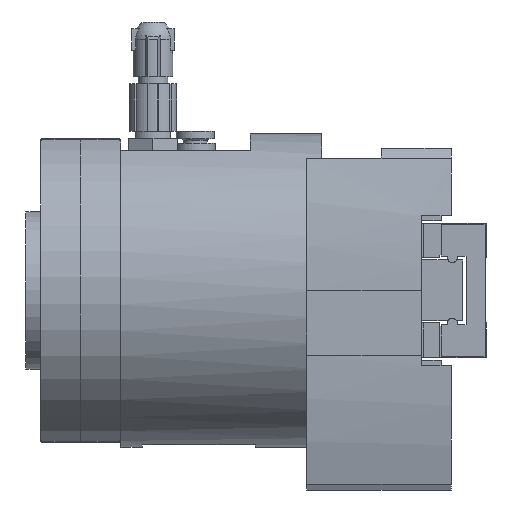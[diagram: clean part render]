
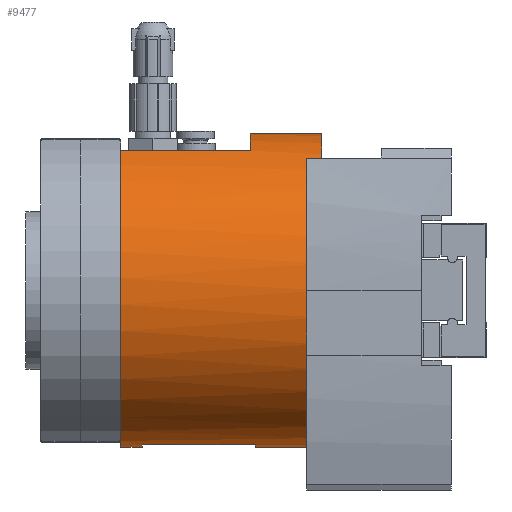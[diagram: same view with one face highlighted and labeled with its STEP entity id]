
A CAD part, left-side view. The second image highlights one B-rep face of the part: STEP entity #9477.
In plain terms, the highlighted cylindrical face has radius 31.5 mm (diameter 63 mm), a full revolution.
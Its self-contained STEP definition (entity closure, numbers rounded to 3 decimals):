
#138=B_SPLINE_CURVE_WITH_KNOTS('',3,(#14171,#14172,#14173,#14174,#14175,
#14176,#14177,#14178,#14179),.UNSPECIFIED.,.F.,.F.,(4,1,1,1,1,1,4),(0.006,
0.01,0.014,0.016,0.018,
0.02,0.022),.UNSPECIFIED.);
#139=B_SPLINE_CURVE_WITH_KNOTS('',3,(#14183,#14184,#14185,#14186,#14187,
#14188,#14189,#14190,#14191),.UNSPECIFIED.,.F.,.F.,(4,1,1,1,1,1,4),(0.,
0.002,0.004,0.006,0.008,
0.012,0.016),.UNSPECIFIED.);
#177=CYLINDRICAL_SURFACE('',#10196,31.5);
#352=CIRCLE('',#10195,31.5);
#353=CIRCLE('',#10197,31.5);
#354=CIRCLE('',#10198,31.5);
#355=CIRCLE('',#10199,31.5);
#356=CIRCLE('',#10200,31.5);
#781=ORIENTED_EDGE('',*,*,#3452,.T.);
#782=ORIENTED_EDGE('',*,*,#3453,.T.);
#783=ORIENTED_EDGE('',*,*,#3364,.T.);
#784=ORIENTED_EDGE('',*,*,#3454,.T.);
#785=ORIENTED_EDGE('',*,*,#3455,.T.);
#786=ORIENTED_EDGE('',*,*,#3440,.F.);
#787=ORIENTED_EDGE('',*,*,#3451,.T.);
#788=ORIENTED_EDGE('',*,*,#3438,.F.);
#789=ORIENTED_EDGE('',*,*,#3456,.T.);
#790=ORIENTED_EDGE('',*,*,#3457,.T.);
#791=ORIENTED_EDGE('',*,*,#3458,.T.);
#792=ORIENTED_EDGE('',*,*,#3442,.F.);
#793=ORIENTED_EDGE('',*,*,#3459,.F.);
#3364=EDGE_CURVE('',#4707,#4706,#5656,.T.);
#3438=EDGE_CURVE('',#4767,#4769,#5698,.F.);
#3440=EDGE_CURVE('',#4770,#4771,#5700,.T.);
#3442=EDGE_CURVE('',#4772,#4773,#5702,.F.);
#3451=EDGE_CURVE('',#4770,#4769,#352,.T.);
#3452=EDGE_CURVE('',#4781,#4781,#353,.T.);
#3453=EDGE_CURVE('',#4782,#4707,#354,.T.);
#3454=EDGE_CURVE('',#4706,#4783,#355,.T.);
#3455=EDGE_CURVE('',#4783,#4782,#5710,.F.);
#3456=EDGE_CURVE('',#4767,#4784,#138,.T.);
#3457=EDGE_CURVE('',#4784,#4785,#5711,.T.);
#3458=EDGE_CURVE('',#4785,#4773,#139,.T.);
#3459=EDGE_CURVE('',#4771,#4772,#356,.T.);
#4706=VERTEX_POINT('',#13981);
#4707=VERTEX_POINT('',#13983);
#4767=VERTEX_POINT('',#14134);
#4769=VERTEX_POINT('',#14137);
#4770=VERTEX_POINT('',#14139);
#4771=VERTEX_POINT('',#14141);
#4772=VERTEX_POINT('',#14143);
#4773=VERTEX_POINT('',#14145);
#4781=VERTEX_POINT('',#14165);
#4782=VERTEX_POINT('',#14167);
#4783=VERTEX_POINT('',#14169);
#4784=VERTEX_POINT('',#14180);
#4785=VERTEX_POINT('',#14182);
#5656=LINE('',#13982,#6604);
#5698=LINE('',#14136,#6646);
#5700=LINE('',#14140,#6648);
#5702=LINE('',#14144,#6650);
#5710=LINE('',#14170,#6658);
#5711=LINE('',#14181,#6659);
#6604=VECTOR('',#11109,1000.);
#6646=VECTOR('',#11251,1000.);
#6648=VECTOR('',#11253,1000.);
#6650=VECTOR('',#11255,1000.);
#6658=VECTOR('',#11277,1000.);
#6659=VECTOR('',#11278,1000.);
#7574=EDGE_LOOP('',(#781));
#7575=EDGE_LOOP('',(#782,#783,#784,#785));
#7576=EDGE_LOOP('',(#786,#787,#788,#789,#790,#791,#792,#793));
#8328=FACE_BOUND('',#7574,.T.);
#8329=FACE_BOUND('',#7575,.T.);
#8330=FACE_BOUND('',#7576,.T.);
#9477=ADVANCED_FACE('',(#8328,#8329,#8330),#177,.T.);
#10195=AXIS2_PLACEMENT_3D('',#14162,#11267,#11268);
#10196=AXIS2_PLACEMENT_3D('',#14163,#11269,#11270);
#10197=AXIS2_PLACEMENT_3D('',#14164,#11271,#11272);
#10198=AXIS2_PLACEMENT_3D('',#14166,#11273,#11274);
#10199=AXIS2_PLACEMENT_3D('',#14168,#11275,#11276);
#10200=AXIS2_PLACEMENT_3D('',#14192,#11279,#11280);
#11109=DIRECTION('',(0.,-1.,0.));
#11251=DIRECTION('',(0.,-1.,0.));
#11253=DIRECTION('',(0.,-1.,0.));
#11255=DIRECTION('',(0.,-1.,0.));
#11267=DIRECTION('',(0.,-1.,0.));
#11268=DIRECTION('',(0.,0.,-1.));
#11269=DIRECTION('',(0.,-1.,0.));
#11270=DIRECTION('',(0.,0.,-1.));
#11271=DIRECTION('',(0.,1.,0.));
#11272=DIRECTION('',(1.,0.,0.));
#11273=DIRECTION('',(0.,1.,0.));
#11274=DIRECTION('',(-1.,0.,0.));
#11275=DIRECTION('',(0.,-1.,0.));
#11276=DIRECTION('',(0.,0.,-1.));
#11277=DIRECTION('',(0.,-1.,0.));
#11278=DIRECTION('',(0.,-1.,0.));
#11279=DIRECTION('',(0.,1.,0.));
#11280=DIRECTION('',(0.,0.,1.));
#13981=CARTESIAN_POINT('',(-6.,-35.,-30.923));
#13982=CARTESIAN_POINT('',(-6.,-49.,-30.923));
#13983=CARTESIAN_POINT('',(-6.,-12.4,-30.923));
#14134=CARTESIAN_POINT('',(14.431,-12.369,28.));
#14136=CARTESIAN_POINT('',(14.431,-49.,28.));
#14137=CARTESIAN_POINT('',(14.431,-8.,28.));
#14139=CARTESIAN_POINT('',(-14.431,-8.,28.));
#14140=CARTESIAN_POINT('',(-14.431,-49.,28.));
#14141=CARTESIAN_POINT('',(-14.431,-34.,28.));
#14143=CARTESIAN_POINT('',(14.431,-34.,28.));
#14144=CARTESIAN_POINT('',(14.431,-49.,28.));
#14145=CARTESIAN_POINT('',(14.431,-33.631,28.));
#14162=CARTESIAN_POINT('',(0.,-8.,0.));
#14163=CARTESIAN_POINT('',(0.,-49.,0.));
#14164=CARTESIAN_POINT('',(0.,-48.3,0.));
#14165=CARTESIAN_POINT('',(31.5,-48.3,0.));
#14166=CARTESIAN_POINT('',(0.,-12.4,0.));
#14167=CARTESIAN_POINT('',(31.305,-12.4,-3.5));
#14168=CARTESIAN_POINT('',(0.,-35.,0.));
#14169=CARTESIAN_POINT('',(31.305,-35.,-3.5));
#14170=CARTESIAN_POINT('',(31.305,-49.,-3.5));
#14171=CARTESIAN_POINT('',(14.431,-12.369,28.));
#14172=CARTESIAN_POINT('',(15.439,-11.668,27.48));
#14173=CARTESIAN_POINT('',(17.722,-10.965,26.151));
#14174=CARTESIAN_POINT('',(20.362,-11.553,24.09));
#14175=CARTESIAN_POINT('',(22.107,-12.701,22.461));
#14176=CARTESIAN_POINT('',(23.212,-13.914,21.311));
#14177=CARTESIAN_POINT('',(24.027,-15.518,20.377));
#14178=CARTESIAN_POINT('',(24.25,-16.827,20.104));
#14179=CARTESIAN_POINT('',(24.25,-17.5,20.104));
#14180=CARTESIAN_POINT('',(24.25,-17.5,20.104));
#14181=CARTESIAN_POINT('',(24.25,-49.,20.104));
#14182=CARTESIAN_POINT('',(24.25,-28.5,20.104));
#14183=CARTESIAN_POINT('',(24.25,-28.5,20.104));
#14184=CARTESIAN_POINT('',(24.25,-29.174,20.104));
#14185=CARTESIAN_POINT('',(24.027,-30.482,20.377));
#14186=CARTESIAN_POINT('',(23.21,-32.09,21.314));
#14187=CARTESIAN_POINT('',(22.104,-33.302,22.464));
#14188=CARTESIAN_POINT('',(20.354,-34.449,24.097));
#14189=CARTESIAN_POINT('',(17.737,-35.038,26.141));
#14190=CARTESIAN_POINT('',(15.429,-34.325,27.486));
#14191=CARTESIAN_POINT('',(14.431,-33.631,28.));
#14192=CARTESIAN_POINT('',(0.,-34.,0.));
